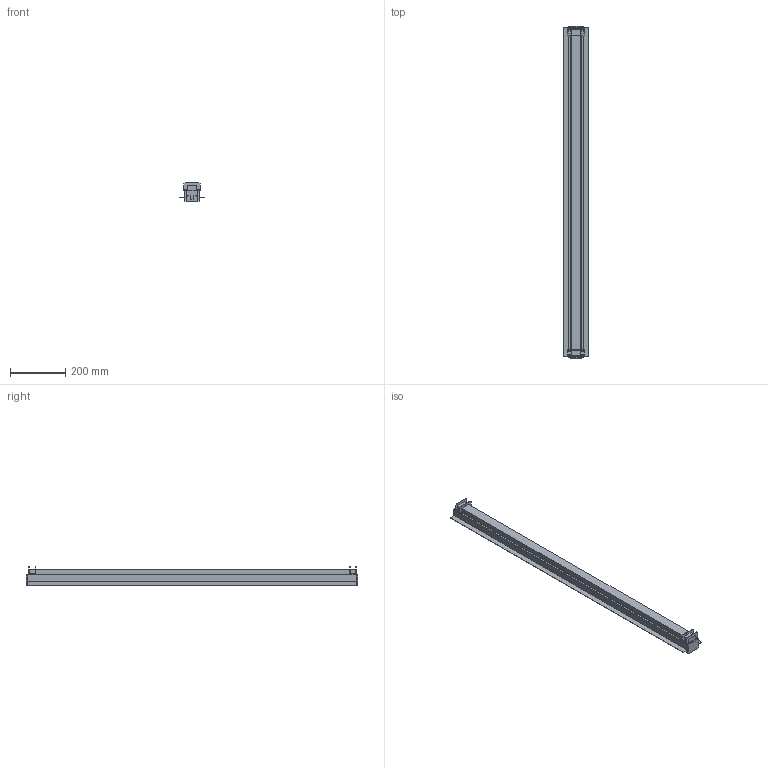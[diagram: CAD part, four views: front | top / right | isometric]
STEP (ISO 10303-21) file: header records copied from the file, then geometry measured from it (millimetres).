
FILE_DESCRIPTION(/* description */ (''),/* implementation_level */ '2;1');
FILE_NAME(/* name */ 'ATL1184__',/* time_stamp */ '2018-07-18T15:32:48+02:00',/* author */ (''),/* organization */ (''),/* preprocessor_version */ 'ST-DEVELOPER v15',/* originating_system */ '',/* authorisation */ '');
FILE_SCHEMA (('CONFIG_CONTROL_DESIGN'));
Length unit declared in the file: millimetre
Products named in the file (1): Document
Bounding box: 92.2 x 1198.72 x 68.52 mm (x, y, z)
Volume: 1488227.2 mm3; surface area: 607630.8 mm2
Topology: 10 solids, 14 shells, 471 faces, 1452 edges, 942 vertices
Faces by surface type: plane 275, bspline 196
Entity records: 15149 total; most frequent: CARTESIAN_POINT 6604, ORIENTED_EDGE 2816, EDGE_CURVE 1451, B_SPLINE_CURVE_WITH_KNOTS 962, VERTEX_POINT 942, ADVANCED_FACE 471, FACE_OUTER_BOUND 471, EDGE_LOOP 471
